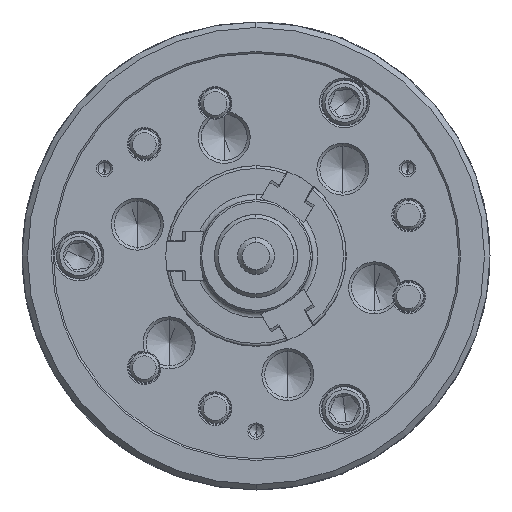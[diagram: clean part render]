
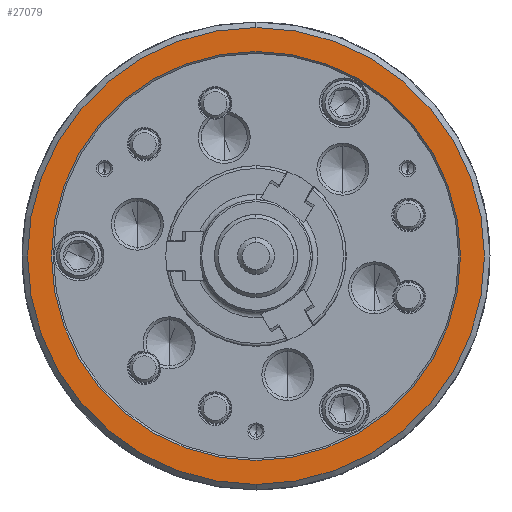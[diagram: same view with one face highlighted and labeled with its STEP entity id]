
A CAD part, left-side view. The second image highlights one B-rep face of the part: STEP entity #27079.
In plain terms, the highlighted planar face has unit normal (-1, 0, 0).
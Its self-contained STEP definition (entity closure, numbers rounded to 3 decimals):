
#2015 = AXIS2_PLACEMENT_3D ( 'NONE', #10786, #24675, #82659 ) ;
#2205 = EDGE_CURVE ( 'NONE', #30296, #26731, #28106, .T. ) ;
#4408 = ORIENTED_EDGE ( 'NONE', *, *, #6499, .F. ) ;
#4906 = ORIENTED_EDGE ( 'NONE', *, *, #61503, .T. ) ;
#6499 = EDGE_CURVE ( 'NONE', #47901, #82538, #14586, .T. ) ;
#10265 = FACE_BOUND ( 'NONE', #22318, .T. ) ;
#10786 = CARTESIAN_POINT ( 'NONE',  ( -89., -124., 0. ) ) ;
#14586 = CIRCLE ( 'NONE', #62165, 124. ) ;
#14762 = DIRECTION ( 'NONE',  ( 0., 0., -1. ) ) ;
#15696 = CARTESIAN_POINT ( 'NONE',  ( -89., 0., 111. ) ) ;
#16392 = EDGE_CURVE ( 'NONE', #82538, #47901, #26306, .T. ) ;
#17343 = CARTESIAN_POINT ( 'NONE',  ( -89., 0., -111. ) ) ;
#18019 = DIRECTION ( 'NONE',  ( 0., 0., -1. ) ) ;
#21608 = AXIS2_PLACEMENT_3D ( 'NONE', #97149, #40763, #23750 ) ;
#22318 = EDGE_LOOP ( 'NONE', ( #43249, #4906 ) ) ;
#23750 = DIRECTION ( 'NONE',  ( 0., 0., -1. ) ) ;
#24675 = DIRECTION ( 'NONE',  ( 1., 0., 0. ) ) ;
#26306 = CIRCLE ( 'NONE', #36483, 124. ) ;
#26731 = VERTEX_POINT ( 'NONE', #17343 ) ;
#27079 = ADVANCED_FACE ( 'NONE', ( #83693, #10265 ), #34752, .F. ) ;
#28106 = CIRCLE ( 'NONE', #99478, 111. ) ;
#30216 = DIRECTION ( 'NONE',  ( 1., 0., 0. ) ) ;
#30296 = VERTEX_POINT ( 'NONE', #15696 ) ;
#31926 = CARTESIAN_POINT ( 'NONE',  ( -89., 0., -124. ) ) ;
#34752 = PLANE ( 'NONE',  #2015 ) ;
#35557 = DIRECTION ( 'NONE',  ( 1., 0., 0. ) ) ;
#36483 = AXIS2_PLACEMENT_3D ( 'NONE', #78652, #30216, #14762 ) ;
#40763 = DIRECTION ( 'NONE',  ( 1., 0., 0. ) ) ;
#43249 = ORIENTED_EDGE ( 'NONE', *, *, #2205, .T. ) ;
#47901 = VERTEX_POINT ( 'NONE', #64130 ) ;
#48824 = CIRCLE ( 'NONE', #21608, 111. ) ;
#51531 = CARTESIAN_POINT ( 'NONE',  ( -89., 0., 0. ) ) ;
#54998 = DIRECTION ( 'NONE',  ( 0., 0., -1. ) ) ;
#61503 = EDGE_CURVE ( 'NONE', #26731, #30296, #48824, .T. ) ;
#62165 = AXIS2_PLACEMENT_3D ( 'NONE', #78951, #95411, #54998 ) ;
#64130 = CARTESIAN_POINT ( 'NONE',  ( -89., 0., 124. ) ) ;
#68656 = ORIENTED_EDGE ( 'NONE', *, *, #16392, .F. ) ;
#78652 = CARTESIAN_POINT ( 'NONE',  ( -89., 0., 0. ) ) ;
#78951 = CARTESIAN_POINT ( 'NONE',  ( -89., 0., 0. ) ) ;
#82538 = VERTEX_POINT ( 'NONE', #31926 ) ;
#82659 = DIRECTION ( 'NONE',  ( 0., 0., -1. ) ) ;
#83693 = FACE_OUTER_BOUND ( 'NONE', #104865, .T. ) ;
#95411 = DIRECTION ( 'NONE',  ( 1., 0., 0. ) ) ;
#97149 = CARTESIAN_POINT ( 'NONE',  ( -89., 0., 0. ) ) ;
#99478 = AXIS2_PLACEMENT_3D ( 'NONE', #51531, #35557, #18019 ) ;
#104865 = EDGE_LOOP ( 'NONE', ( #68656, #4408 ) ) ;
